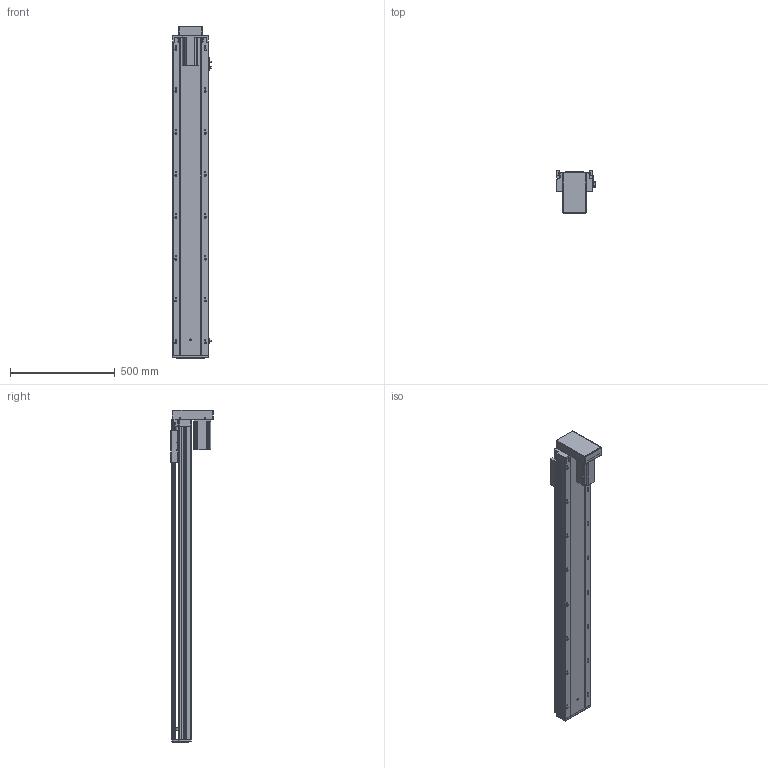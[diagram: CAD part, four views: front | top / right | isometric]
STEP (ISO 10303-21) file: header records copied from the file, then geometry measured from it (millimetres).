
FILE_DESCRIPTION (( 'STEP AP203' ), '1' );
FILE_NAME ('RY170-L2510-1400-BK.SLDASM_1250.step', '2021-03-12T09:26:11', ( '盈信电脑' ), ( '东莞市道滘镇水果街19号' ), 'SwSTEP 2.0', 'SolidWorks 2012', '' );
FILE_SCHEMA (( 'CONFIG_CONTROL_DESIGN' ));
Products named in the file (14): 覜茼ん672; RY170-L2510-1400-BK.SLDASM_1250; RY170-狟殏750W萇儂傷; 滅袉蝶18-15; 怢湛750W萇儂ㄗ80遺ㄘ; RY170-狟殏萇儂假蚾啣; RY170转折电机端支撑座(7004); RY170狟殏萇儂欶; 滅袉蝶18-20; RY170外置感应片(200共用）; RY170綴裔啣; 改造-RY170铝滑块25丝杆螺母; RY170-1400倰第裔啣-BK_1250; RY170-1400倰第菁釱-BK_1250
Assembly tree (15 placements, depth 3):
  RY170-L2510-1400-BK.SLDASM_1250
    RY170-1400倰第菁釱-BK_1250
    改造-RY170铝滑块25丝杆螺母
    RY170-1400倰第裔啣-BK_1250
    RY170綴裔啣
    覜茼ん672  x3
    RY170外置感应片(200共用）
    滅袉蝶18-20
    RY170转折电机端支撑座(7004)
    RY170-狟殏750W萇儂傷
      RY170-狟殏萇儂假蚾啣
      RY170狟殏萇儂欶
      怢湛750W萇儂ㄗ80遺ㄘ
    滅袉蝶18-15
Bounding box: 183.7 x 200.8 x 1584.5 mm (x, y, z)
Volume: 8365757.8 mm3; surface area: 2649461.6 mm2
Topology: 14 solids, 14 shells, 2234 faces, 6409 edges, 4096 vertices
Faces by surface type: plane 1084, cylinder 925, cone 206, bspline 19
Entity records: 72282 total; most frequent: CARTESIAN_POINT 17436, ORIENTED_EDGE 11498, DIRECTION 10651, EDGE_CURVE 5749, VERTEX_POINT 3776, AXIS2_PLACEMENT_3D 3561, LINE 3529, VECTOR 3529
